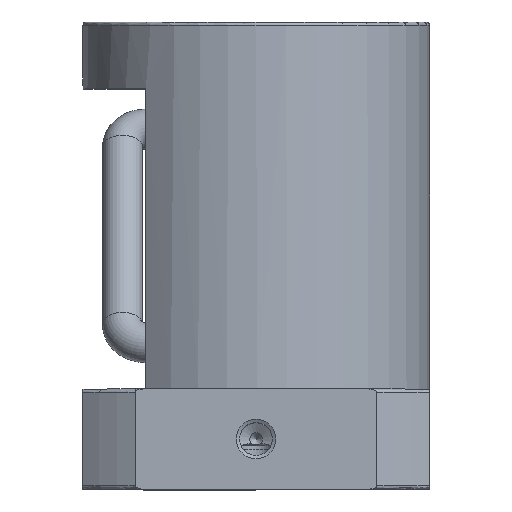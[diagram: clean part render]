
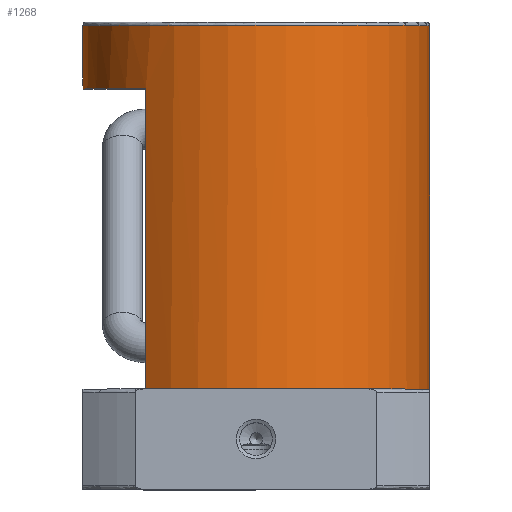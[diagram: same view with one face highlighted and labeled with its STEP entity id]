
A CAD part, top view. The second image highlights one B-rep face of the part: STEP entity #1268.
In plain terms, the highlighted cylindrical face has radius 26 mm (diameter 52 mm), a full revolution.
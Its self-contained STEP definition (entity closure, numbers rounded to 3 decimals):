
#73=CYLINDRICAL_SURFACE('',#1336,26.);
#101=CIRCLE('',#1337,26.);
#102=CIRCLE('',#1338,26.);
#103=CIRCLE('',#1339,26.);
#104=CIRCLE('',#1340,26.);
#167=ORIENTED_EDGE('',*,*,#393,.T.);
#168=ORIENTED_EDGE('',*,*,#394,.F.);
#169=ORIENTED_EDGE('',*,*,#388,.T.);
#170=ORIENTED_EDGE('',*,*,#395,.T.);
#171=ORIENTED_EDGE('',*,*,#396,.T.);
#172=ORIENTED_EDGE('',*,*,#386,.T.);
#386=EDGE_CURVE('',#500,#498,#589,.F.);
#388=EDGE_CURVE('',#499,#501,#591,.T.);
#393=EDGE_CURVE('',#506,#506,#101,.F.);
#394=EDGE_CURVE('',#499,#498,#102,.T.);
#395=EDGE_CURVE('',#501,#507,#103,.F.);
#396=EDGE_CURVE('',#507,#500,#104,.F.);
#498=VERTEX_POINT('',#1741);
#499=VERTEX_POINT('',#1742);
#500=VERTEX_POINT('',#1744);
#501=VERTEX_POINT('',#1746);
#506=VERTEX_POINT('',#1758);
#507=VERTEX_POINT('',#1761);
#589=LINE('',#1743,#610);
#591=LINE('',#1747,#612);
#610=VECTOR('',#1464,1000.);
#612=VECTOR('',#1466,1000.);
#635=EDGE_LOOP('',(#167));
#636=EDGE_LOOP('',(#168,#169,#170,#171,#172));
#737=FACE_BOUND('',#635,.T.);
#738=FACE_BOUND('',#636,.T.);
#1268=ADVANCED_FACE('',(#737,#738),#73,.T.);
#1336=AXIS2_PLACEMENT_3D('',#1756,#1475,#1476);
#1337=AXIS2_PLACEMENT_3D('',#1757,#1477,#1478);
#1338=AXIS2_PLACEMENT_3D('',#1759,#1479,#1480);
#1339=AXIS2_PLACEMENT_3D('',#1760,#1481,#1482);
#1340=AXIS2_PLACEMENT_3D('',#1762,#1483,#1484);
#1464=DIRECTION('',(0.,-1.,0.));
#1466=DIRECTION('',(0.,-1.,0.));
#1475=DIRECTION('',(0.,-1.,0.));
#1476=DIRECTION('',(0.,0.,-1.));
#1477=DIRECTION('',(0.,1.,0.));
#1478=DIRECTION('',(0.,0.,1.));
#1479=DIRECTION('',(0.,-1.,0.));
#1480=DIRECTION('',(0.,0.,-1.));
#1481=DIRECTION('',(0.,-1.,0.));
#1482=DIRECTION('',(0.,0.,-1.));
#1483=DIRECTION('',(0.,-1.,0.));
#1484=DIRECTION('',(0.,0.,-1.));
#1741=CARTESIAN_POINT('',(-16.5,60.,-20.094));
#1742=CARTESIAN_POINT('',(-16.5,60.,20.094));
#1743=CARTESIAN_POINT('',(-16.5,70.,-20.094));
#1744=CARTESIAN_POINT('',(-16.5,15.,-20.094));
#1746=CARTESIAN_POINT('',(-16.5,15.,20.094));
#1747=CARTESIAN_POINT('',(-16.5,70.,20.094));
#1756=CARTESIAN_POINT('',(0.,70.,0.));
#1757=CARTESIAN_POINT('',(0.,69.5,0.));
#1758=CARTESIAN_POINT('',(0.,69.5,26.));
#1759=CARTESIAN_POINT('',(0.,60.,0.));
#1760=CARTESIAN_POINT('',(0.,15.,0.));
#1761=CARTESIAN_POINT('',(26.,15.,0.));
#1762=CARTESIAN_POINT('',(0.,15.,0.));
